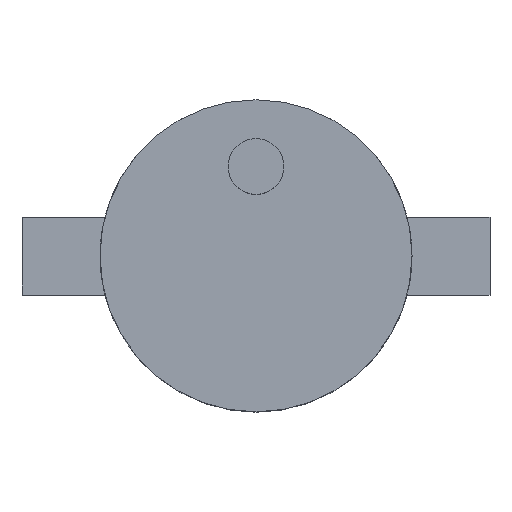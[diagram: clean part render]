
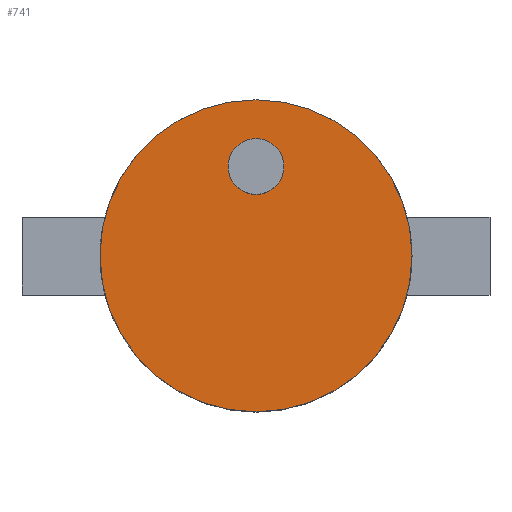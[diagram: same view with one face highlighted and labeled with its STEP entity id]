
A CAD part, top view. The second image highlights one B-rep face of the part: STEP entity #741.
In plain terms, the highlighted planar face has unit normal (0, 0, 1).
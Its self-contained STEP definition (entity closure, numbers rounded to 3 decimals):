
#73 = CYLINDRICAL_SURFACE('',#74,14.);
#74 = AXIS2_PLACEMENT_3D('',#75,#76,#77);
#75 = CARTESIAN_POINT('',(0.,0.,0.));
#76 = DIRECTION('',(-0.,-0.,-1.));
#77 = DIRECTION('',(1.,0.,0.));
#353 = VERTEX_POINT('',#354);
#354 = CARTESIAN_POINT('',(14.,0.,19.));
#375 = EDGE_CURVE('',#353,#353,#376,.T.);
#376 = SURFACE_CURVE('',#377,(#382,#389),.PCURVE_S1.);
#377 = CIRCLE('',#378,14.);
#378 = AXIS2_PLACEMENT_3D('',#379,#380,#381);
#379 = CARTESIAN_POINT('',(0.,0.,19.));
#380 = DIRECTION('',(0.,0.,1.));
#381 = DIRECTION('',(1.,0.,0.));
#382 = PCURVE('',#73,#383);
#383 = DEFINITIONAL_REPRESENTATION('',(#384),#388);
#384 = LINE('',#385,#386);
#385 = CARTESIAN_POINT('',(-0.,-19.));
#386 = VECTOR('',#387,1.);
#387 = DIRECTION('',(-1.,0.));
#388 = ( GEOMETRIC_REPRESENTATION_CONTEXT(2) 
PARAMETRIC_REPRESENTATION_CONTEXT() REPRESENTATION_CONTEXT('2D SPACE',''
  ) );
#389 = PCURVE('',#390,#395);
#390 = PLANE('',#391);
#391 = AXIS2_PLACEMENT_3D('',#392,#393,#394);
#392 = CARTESIAN_POINT('',(0.,0.,19.));
#393 = DIRECTION('',(0.,0.,1.));
#394 = DIRECTION('',(1.,0.,-0.));
#395 = DEFINITIONAL_REPRESENTATION('',(#396),#400);
#396 = CIRCLE('',#397,14.);
#397 = AXIS2_PLACEMENT_2D('',#398,#399);
#398 = CARTESIAN_POINT('',(0.,0.));
#399 = DIRECTION('',(1.,0.));
#400 = ( GEOMETRIC_REPRESENTATION_CONTEXT(2) 
PARAMETRIC_REPRESENTATION_CONTEXT() REPRESENTATION_CONTEXT('2D SPACE',''
  ) );
#741 = ADVANCED_FACE('',(#742,#745),#390,.T.);
#742 = FACE_BOUND('',#743,.T.);
#743 = EDGE_LOOP('',(#744));
#744 = ORIENTED_EDGE('',*,*,#375,.T.);
#745 = FACE_BOUND('',#746,.T.);
#746 = EDGE_LOOP('',(#747));
#747 = ORIENTED_EDGE('',*,*,#748,.F.);
#748 = EDGE_CURVE('',#749,#749,#751,.T.);
#749 = VERTEX_POINT('',#750);
#750 = CARTESIAN_POINT('',(2.5,8.,19.));
#751 = SURFACE_CURVE('',#752,(#757,#764),.PCURVE_S1.);
#752 = CIRCLE('',#753,2.5);
#753 = AXIS2_PLACEMENT_3D('',#754,#755,#756);
#754 = CARTESIAN_POINT('',(0.,8.,19.));
#755 = DIRECTION('',(0.,0.,1.));
#756 = DIRECTION('',(1.,0.,0.));
#757 = PCURVE('',#390,#758);
#758 = DEFINITIONAL_REPRESENTATION('',(#759),#763);
#759 = CIRCLE('',#760,2.5);
#760 = AXIS2_PLACEMENT_2D('',#761,#762);
#761 = CARTESIAN_POINT('',(0.,8.));
#762 = DIRECTION('',(1.,0.));
#763 = ( GEOMETRIC_REPRESENTATION_CONTEXT(2) 
PARAMETRIC_REPRESENTATION_CONTEXT() REPRESENTATION_CONTEXT('2D SPACE',''
  ) );
#764 = PCURVE('',#765,#770);
#765 = CYLINDRICAL_SURFACE('',#766,2.5);
#766 = AXIS2_PLACEMENT_3D('',#767,#768,#769);
#767 = CARTESIAN_POINT('',(0.,8.,19.));
#768 = DIRECTION('',(-0.,-0.,-1.));
#769 = DIRECTION('',(1.,0.,0.));
#770 = DEFINITIONAL_REPRESENTATION('',(#771),#775);
#771 = LINE('',#772,#773);
#772 = CARTESIAN_POINT('',(-0.,0.));
#773 = VECTOR('',#774,1.);
#774 = DIRECTION('',(-1.,0.));
#775 = ( GEOMETRIC_REPRESENTATION_CONTEXT(2) 
PARAMETRIC_REPRESENTATION_CONTEXT() REPRESENTATION_CONTEXT('2D SPACE',''
  ) );
